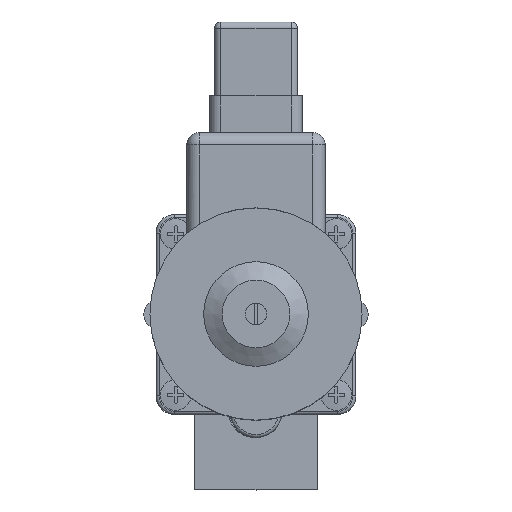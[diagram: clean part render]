
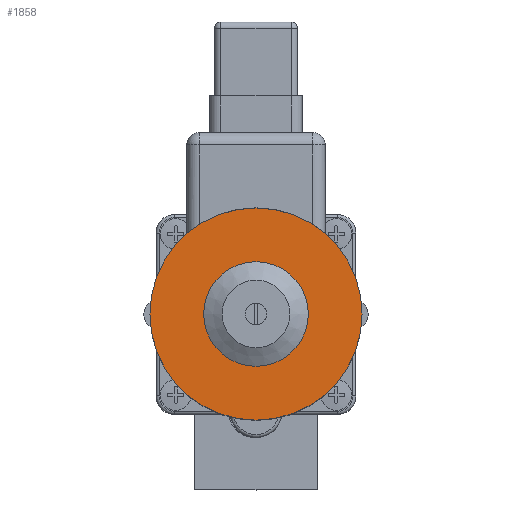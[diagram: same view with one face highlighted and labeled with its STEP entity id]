
A CAD part, top view. The second image highlights one B-rep face of the part: STEP entity #1858.
In plain terms, the highlighted planar face has unit normal (0, 0, 1).
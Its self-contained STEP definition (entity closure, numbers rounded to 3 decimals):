
#1858 = ADVANCED_FACE( '', ( #3074, #3075 ), #3076, .F. );
#3074 = FACE_BOUND( '', #7200, .T. );
#3075 = FACE_OUTER_BOUND( '', #7201, .T. );
#3076 = PLANE( '', #7202 );
#7200 = EDGE_LOOP( '', ( #10181 ) );
#7201 = EDGE_LOOP( '', ( #10182 ) );
#7202 = AXIS2_PLACEMENT_3D( '', #10183, #10184, #10185 );
#10181 = ORIENTED_EDGE( '', *, *, #11415, .T. );
#10182 = ORIENTED_EDGE( '', *, *, #11406, .F. );
#10183 = CARTESIAN_POINT( '', ( 0., 0., 60. ) );
#10184 = DIRECTION( '', ( 0., 0., -1. ) );
#10185 = DIRECTION( '', ( -1., 0., 0. ) );
#11406 = EDGE_CURVE( '', #12898, #12898, #12899, .T. );
#11415 = EDGE_CURVE( '', #12915, #12915, #12916, .T. );
#12898 = VERTEX_POINT( '', #17366 );
#12899 = CIRCLE( '', #17367, 34.5 );
#12915 = VERTEX_POINT( '', #17432 );
#12916 = CIRCLE( '', #17433, 13.75 );
#17366 = CARTESIAN_POINT( '', ( 34.5, 0., 60. ) );
#17367 = AXIS2_PLACEMENT_3D( '', #19250, #19251, #19252 );
#17432 = CARTESIAN_POINT( '', ( 13.75, 0., 60. ) );
#17433 = AXIS2_PLACEMENT_3D( '', #19264, #19265, #19266 );
#19250 = CARTESIAN_POINT( '', ( 0., 0., 60. ) );
#19251 = DIRECTION( '', ( 0., 0., -1. ) );
#19252 = DIRECTION( '', ( 1., 0., 0. ) );
#19264 = CARTESIAN_POINT( '', ( 0., 0., 60. ) );
#19265 = DIRECTION( '', ( 0., 0., -1. ) );
#19266 = DIRECTION( '', ( 1., 0., 0. ) );
